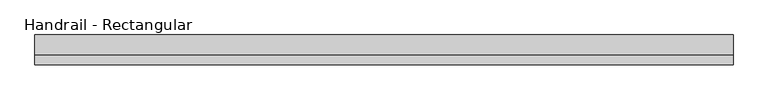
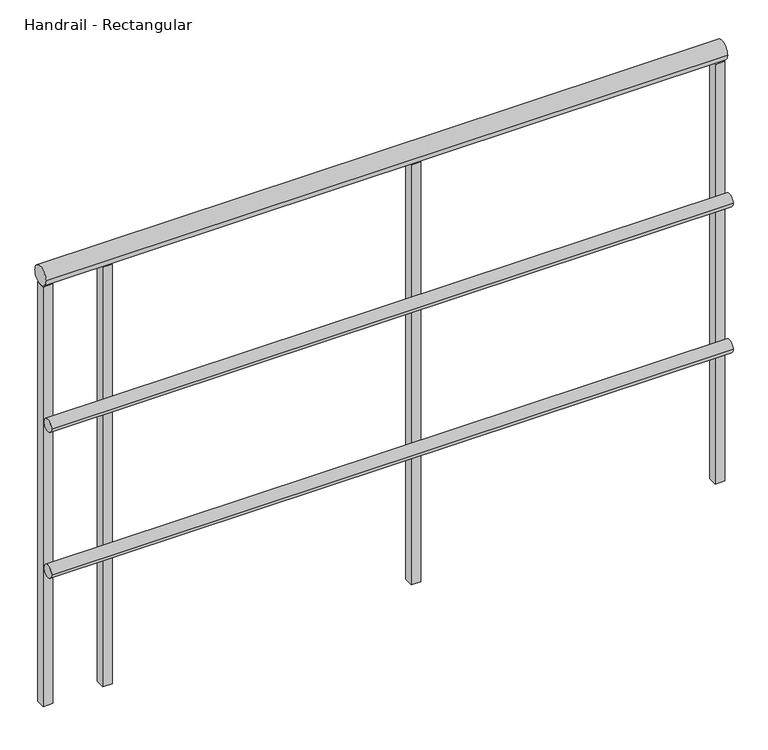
"""IFC4 building model written with IfcOpenShell, lengths in millimetres: railing geometry, Handrail - Rectangular."""

from ifc_helpers import new_model, si_unit, point, frame, frame_2d, origin, place, context, project, spatial, polyline, circle_curve, trimmed, segment, composite_curve, outline, extrude, source, transform, mapped, element, save


def handrail_rectangular_8255650b(model_context):
    return source(origin(), model_context, "Body", "SweptSolid", [
        extrude(outline(composite_curve([segment(trimmed(circle_curve(frame_2d((-35578.5683133, 9740.9)), 12.7), [point((-35591.2683133, 9740.9))], [point((-35565.8683133, 9740.9))], False, "CARTESIAN"), True, "CONTINUOUS"), segment(trimmed(circle_curve(frame_2d((-35578.5683133, 9740.9)), 12.7), [point((-35565.8683133, 9740.9))], [point((-35591.2683133, 9740.9))], False, "CARTESIAN"), True, "CONTINUOUS")], self_intersect=False)), frame((-25550.7839563, 0.0, 0.0), z_axis=(1.0, 0.0, 0.0), x_axis=(0.0, 1.0, 0.0)), (0.0, 0.0, 1.0), 1346.2),
        extrude(outline(composite_curve([segment(trimmed(circle_curve(frame_2d((-35578.5683133, 9436.1)), 12.7), [point((-35591.2683133, 9436.1))], [point((-35565.8683133, 9436.1))], False, "CARTESIAN"), True, "CONTINUOUS"), segment(trimmed(circle_curve(frame_2d((-35578.5683133, 9436.1)), 12.7), [point((-35565.8683133, 9436.1))], [point((-35591.2683133, 9436.1))], False, "CARTESIAN"), True, "CONTINUOUS")], self_intersect=False)), frame((-25550.7839563, 0.0, 0.0), z_axis=(1.0, 0.0, 0.0), x_axis=(0.0, 1.0, 0.0)), (0.0, 0.0, 1.0), 1346.2),
        extrude(outline(composite_curve([segment(trimmed(circle_curve(frame_2d((-35553.1683133, 10039.35)), 19.05), [point((-35572.2183133, 10039.35))], [point((-35534.1183133, 10039.35))], False, "CARTESIAN"), True, "CONTINUOUS"), segment(trimmed(circle_curve(frame_2d((-35553.1683133, 10039.35)), 19.05), [point((-35534.1183133, 10039.35))], [point((-35572.2183133, 10039.35))], False, "CARTESIAN"), True, "CONTINUOUS")], self_intersect=False)), frame((-25550.7839563, 0.0, 0.0), z_axis=(1.0, 0.0, 0.0), x_axis=(0.0, 1.0, 0.0)), (0.0, 0.0, 1.0), 1346.2),
        extrude(outline(polyline([(-25414.2589563, -35543.6433133), (-25414.2589563, -35562.6933133), (-25433.3089563, -35562.6933133), (-25433.3089563, -35543.6433133), (-25414.2589563, -35543.6433133)])), frame((0.0, 0.0, 9144.0), z_axis=(0.0, 0.0, 1.0), x_axis=(1.0, 0.0, 0.0)), (0.0, 0.0, 1.0), 876.3),
        extrude(outline(polyline([(-24804.6589563, -35543.6433133), (-24804.6589563, -35562.6933133), (-24823.7089563, -35562.6933133), (-24823.7089563, -35543.6433133), (-24804.6589563, -35543.6433133)])), frame((0.0, 0.0, 9144.0), z_axis=(0.0, 0.0, 1.0), x_axis=(1.0, 0.0, 0.0)), (0.0, 0.0, 1.0), 876.3),
        extrude(outline(polyline([(-25531.7339563, -35543.6433133), (-25531.7339563, -35562.6933133), (-25550.7839563, -35562.6933133), (-25550.7839563, -35543.6433133), (-25531.7339563, -35543.6433133)])), frame((0.0, 0.0, 9144.0), z_axis=(0.0, 0.0, 1.0), x_axis=(1.0, 0.0, 0.0)), (0.0, 0.0, 1.0), 876.3),
        extrude(outline(polyline([(-24204.5839563, -35543.6433133), (-24204.5839563, -35562.6933133), (-24223.6339563, -35562.6933133), (-24223.6339563, -35543.6433133), (-24204.5839563, -35543.6433133)])), frame((0.0, 0.0, 9144.0), z_axis=(0.0, 0.0, 1.0), x_axis=(1.0, 0.0, 0.0)), (0.0, 0.0, 1.0), 876.3),
    ])


if __name__ == "__main__":
    model = new_model("IFC4")
    model_context = context("Model", 3, world=origin())
    ifc_project = project(units=[si_unit("LENGTHUNIT", "METRE", prefix="MILLI")], contexts=[model_context])
    site = spatial("IfcSite", under=ifc_project)
    building = spatial("IfcBuilding", under=site)
    placement = place(None, origin())
    handrail_rectangular_shape = handrail_rectangular_8255650b(model_context)
    element("IfcRailing", 1, ObjectType="Handrail - Rectangular", at=placement, inside=building, context=model_context, shape_type="MappedRepresentation", body=[
        mapped(handrail_rectangular_shape, transform((0.0, 0.0, 0.0), x_axis=(1.0, 0.0, 0.0), y_axis=(0.0, 1.0, 0.0), z_axis=(0.0, 0.0, 1.0))),
    ])
    save(model, "model.ifc")
